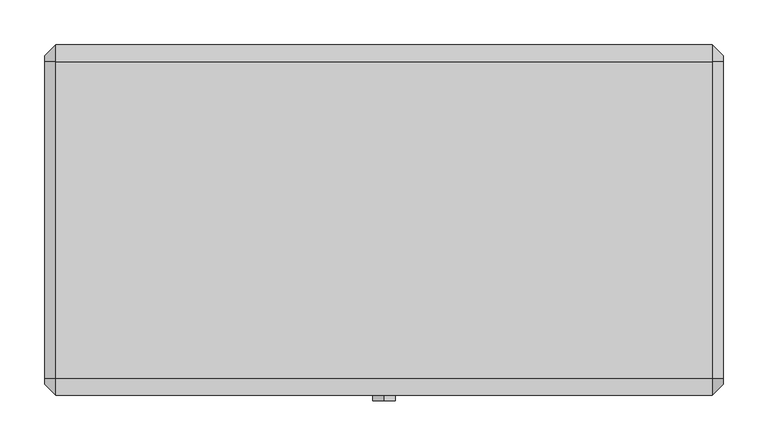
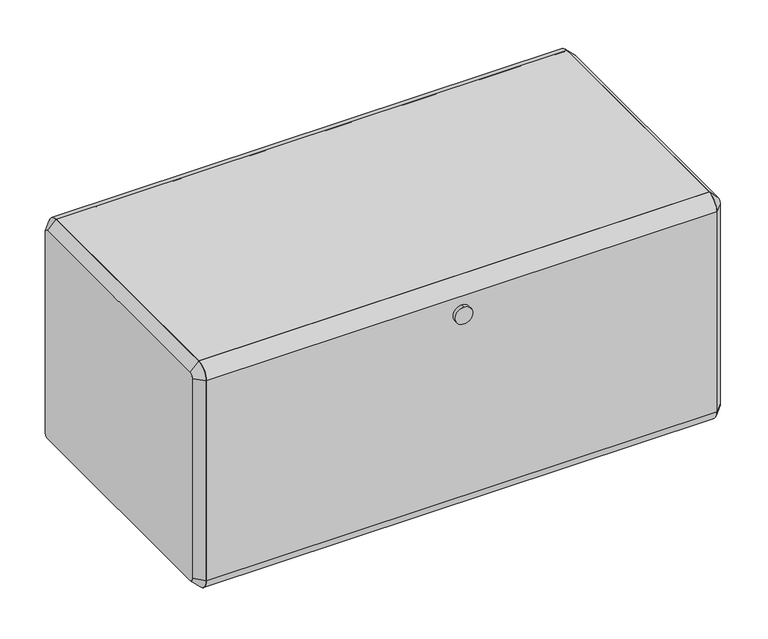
"""IFC4 building model written with IfcOpenShell, lengths in millimetres: furniture geometry."""

from ifc_helpers import new_model, si_unit, point, frame, frame_2d, origin, place, context, project, spatial, polyline, circle_curve, trimmed, segment, composite_curve, outline, extrude, source, transform, mapped, element, save
from ifc_brep_helpers import plane_surface, revolved_surface, advanced_brep


def furniture_1f80d258(model_context):
    return source(origin(), model_context, "Body", "SolidModel", [
        extrude(outline(polyline([(368.3, -146.0499879), (368.3, -165.1), (-368.3, -165.1), (-368.3, -146.0499879), (368.3, -146.0499879)])), frame((0.0, 0.0, 495.3), z_axis=(0.0, 0.0, 1.0), x_axis=(1.0, 0.0, 0.0)), (0.0, 0.0, 1.0), 9.525),
        extrude(outline(polyline([(368.3, 190.5), (368.3, -165.1), (-368.3, -165.1), (-368.3, 190.5), (368.3, 190.5)])), frame((0.0, 0.0, 165.1), z_axis=(0.0, 0.0, 1.0), x_axis=(1.0, 0.0, 0.0)), (0.0, 0.0, 1.0), 3.175),
        extrude(outline(composite_curve([segment(polyline([(-165.1, 504.825), (-165.1, 508.0), (190.5, 508.0)]), True, "CONTINUOUS"), segment(trimmed(circle_curve(frame_2d((190.5, 488.95)), 19.05), [point((190.5, 508.0))], [point((209.55, 488.95))], False, "CARTESIAN"), True, "CONTINUOUS"), segment(polyline([(209.55, 488.95), (203.2, 488.95)]), True, "CONTINUOUS"), segment(trimmed(circle_curve(frame_2d((187.8607088, 489.6960671)), 15.3574239), [point((203.2, 488.95))], [point((190.5, 504.825))], True, "CARTESIAN"), True, "CONTINUOUS"), segment(polyline([(190.5, 504.825), (-165.1, 504.825)]), True, "CONTINUOUS")], self_intersect=False)), frame((-368.3, 0.0, 0.0), z_axis=(1.0, 0.0, 0.0), x_axis=(0.0, 1.0, 0.0)), (0.0, 0.0, 1.0), 736.6),
        extrude(outline(composite_curve([segment(trimmed(circle_curve(frame_2d((-165.1, 488.95)), 19.05), [point((-184.15, 488.95))], [point((-165.1, 508.0))], False, "CARTESIAN"), True, "CONTINUOUS"), segment(polyline([(-165.1, 508.0), (-165.1, 495.3)]), True, "CONTINUOUS"), segment(trimmed(circle_curve(frame_2d((-165.1, 488.95)), 6.35), [point((-165.1, 495.3))], [point((-171.45, 488.95))], True, "CARTESIAN"), True, "CONTINUOUS"), segment(polyline([(-171.45, 488.95), (-171.45, 184.15)]), True, "CONTINUOUS"), segment(trimmed(circle_curve(frame_2d((-165.1, 184.15)), 6.35), [point((-171.45, 184.15))], [point((-165.1, 177.8))], True, "CARTESIAN"), True, "CONTINUOUS"), segment(polyline([(-165.1, 177.8), (-165.1, 165.1)]), True, "CONTINUOUS"), segment(trimmed(circle_curve(frame_2d((-165.1, 184.15)), 19.05), [point((-165.1, 165.1))], [point((-184.15, 184.15))], False, "CARTESIAN"), True, "CONTINUOUS"), segment(polyline([(-184.15, 184.15), (-184.15, 488.95)]), True, "CONTINUOUS")], self_intersect=False)), frame((-368.3, 0.0, 0.0), z_axis=(1.0, 0.0, 0.0), x_axis=(0.0, 1.0, 0.0)), (0.0, 0.0, 1.0), 736.6),
        extrude(outline(composite_curve([segment(trimmed(circle_curve(frame_2d((463.5002824, 0.0)), 12.713771), [point((450.7865114, 0.0))], [point((476.2140535, 0.0))], False, "CARTESIAN"), True, "CONTINUOUS"), segment(trimmed(circle_curve(frame_2d((463.5002824, 0.0)), 12.713771), [point((476.2140535, 0.0))], [point((450.7865114, 0.0))], False, "CARTESIAN"), True, "CONTINUOUS")], self_intersect=False)), frame((0.0, -190.5, 0.0), z_axis=(0.0, 1.0, 0.0), x_axis=(0.0, 0.0, 1.0)), (0.0, 0.0, 1.0), 6.35),
        advanced_brep(
        [(381.0, 190.5, 495.3), (381.0, -165.1, 495.3), (381.0, -171.45, 488.95), (381.0, -171.45, 184.15), (381.0, -165.1, 177.8), (381.0, 190.5, 177.8), (381.0, 196.85, 184.15), (381.0, 196.85, 488.95), (368.3, 190.5, 508.0), (368.3, 209.55, 488.95), (368.3, 209.55, 184.15), (368.3, 190.5, 165.1), (368.3, -165.1, 165.1), (368.3, -184.15, 184.15), (368.3, -184.15, 488.95), (368.3, -165.1, 508.0)],
        [
            (0, 1),
            (1, 2, circle_curve(frame((381.0, -165.1, 488.95), z_axis=(1.0, 1.5587531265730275e-12, -1.6520118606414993e-12), x_axis=(1.6520512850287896e-12, 0.0, 1.0)), 6.35)),
            (2, 3),
            (3, 4, circle_curve(frame((381.0, -165.1, 184.15), z_axis=(1.0, -2.3421264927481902e-12, -2.355449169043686e-12), x_axis=(-2.3421069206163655e-12, -1.0, 0.0)), 6.35)),
            (4, 5),
            (5, 6, circle_curve(frame((381.0, 190.5, 184.15), z_axis=(1.0, -3.098854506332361e-12, 3.10151904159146e-12), x_axis=(3.1015606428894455e-12, 0.0, -1.0)), 6.35)),
            (6, 7),
            (7, 0, circle_curve(frame((381.0, 190.5, 488.95), z_axis=(1.0, 1.5587531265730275e-12, 1.4601653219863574e-12), x_axis=(-1.5587877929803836e-12, 1.0, 0.0)), 6.35)),
            (8, 9, circle_curve(frame((368.3, 190.5, 488.95), z_axis=(-1.0, -1.5587531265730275e-12, -1.4601653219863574e-12), x_axis=(-1.5587877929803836e-12, 1.0, 0.0)), 19.05)),
            (9, 10),
            (10, 11, circle_curve(frame((368.3, 190.5, 184.15), z_axis=(-1.0, 3.098854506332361e-12, -3.10151904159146e-12), x_axis=(3.1015606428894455e-12, 0.0, -1.0)), 19.05)),
            (11, 12),
            (12, 13, circle_curve(frame((368.3, -165.1, 184.15), z_axis=(-1.0, 2.3421264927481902e-12, 2.355449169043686e-12), x_axis=(-2.3421069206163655e-12, -1.0, 0.0)), 19.05)),
            (13, 14),
            (14, 15, circle_curve(frame((368.3, -165.1, 488.95), z_axis=(-1.0, -1.5587531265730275e-12, 1.6520118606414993e-12), x_axis=(1.6520512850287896e-12, 0.0, 1.0)), 19.05)),
            (15, 8),
            (15, 1),
            (0, 8),
            (14, 2),
            (13, 3),
            (12, 4),
            (11, 5),
            (10, 6),
            (9, 7),
        ],
        [
            plane_surface(frame((381.0, 12.7, 336.55), z_axis=(1.0, 0.0, 0.0), x_axis=(0.0, -1.0, 0.0))),
            plane_surface(frame((368.3, 12.7, 336.55), z_axis=(-1.0, 0.0, 0.0), x_axis=(0.0, -1.0, 0.0))),
            plane_surface(frame((368.3, 12.7, 508.0), z_axis=(0.707106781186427, 0.0, 0.7071067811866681), x_axis=(0.0, -1.0, 0.0))),
            revolved_surface(polyline([(381.0000000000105, -165.1, 495.2999999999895), (368.3, -165.1, 508.0)]), (387.35, -165.1, 488.95), (-1.0, -1.5587531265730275e-12, 1.6520118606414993e-12)),
            plane_surface(frame((368.3, -184.15, 336.55), z_axis=(0.7071067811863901, -0.7071067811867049, 0.0), x_axis=(0.0, 0.0, -1.0))),
            revolved_surface(polyline([(381.00000000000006, -171.44999999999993, 184.15), (368.2999999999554, -184.15000000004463, 184.15)]), (387.35, -165.1, 184.15), (-1.0, 2.3421264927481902e-12, 2.355449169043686e-12)),
            plane_surface(frame((368.3, 12.7, 165.1), z_axis=(0.7071067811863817, 0.0, -0.7071067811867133), x_axis=(0.0, 1.0, 0.0))),
            revolved_surface(polyline([(381.00000000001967, 190.5, 177.80000000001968), (368.3, 190.5, 165.1)]), (387.35, 190.5, 184.15), (-1.0, 3.098854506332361e-12, -3.10151904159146e-12)),
            plane_surface(frame((368.3, 209.55, 336.55), z_axis=(0.7071067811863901, 0.7071067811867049, 0.0), x_axis=(0.0, 0.0, 1.0))),
            revolved_surface(polyline([(381.0, 196.85000000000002, 488.95), (368.29999999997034, 209.5500000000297, 488.95)]), (387.35, 190.5, 488.95), (-1.0, -1.5587531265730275e-12, -1.4601653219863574e-12)),
        ],
        [
            (0, [[1, 2, 3, 4, 5, 6, 7, 8]]),
            (1, [[9, 10, 11, 12, 13, 14, 15, 16]]),
            (2, [[-16, 17, -1, 18]]),
            (3, [[-15, 19, -2, -17]]),
            (4, [[-14, 20, -3, -19]]),
            (5, [[-13, 21, -4, -20]]),
            (6, [[-12, 22, -5, -21]]),
            (7, [[-11, 23, -6, -22]]),
            (8, [[-10, 24, -7, -23]]),
            (9, [[-9, -18, -8, -24]]),
        ],
    ),
        advanced_brep(
        [(-381.0, -165.1, 495.3), (-381.0, 190.5, 495.3), (-381.0, 196.85, 488.95), (-381.0, 196.85, 184.15), (-381.0, 190.5, 177.8), (-381.0, -165.1, 177.8), (-381.0, -171.45, 184.15), (-381.0, -171.45, 488.95), (-368.3, -165.1, 508.0), (-368.3, -184.15, 488.95), (-368.3, -184.15, 184.15), (-368.3, -165.1, 165.1), (-368.3, 190.5, 165.1), (-368.3, 209.55, 184.15), (-368.3, 209.55, 488.95), (-368.3, 190.5, 508.0)],
        [
            (0, 1),
            (1, 2, circle_curve(frame((-381.0, 190.5, 488.95), z_axis=(-1.0, -1.5560885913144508e-12, -1.4601653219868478e-12), x_axis=(-1.4601859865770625e-12, 0.0, 1.0)), 6.35)),
            (2, 3),
            (3, 4, circle_curve(frame((-381.0, 190.5, 184.15), z_axis=(-1.0, 0.0, 0.0), x_axis=(0.0, 1.0, 0.0)), 6.35)),
            (4, 5),
            (5, 6, circle_curve(frame((-381.0, -165.1, 184.15), z_axis=(-1.0, 0.0, 0.0), x_axis=(0.0, 0.0, -1.0)), 6.35)),
            (6, 7),
            (7, 0, circle_curve(frame((-381.0, -165.1, 488.95), z_axis=(-1.0, -1.5534240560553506e-12, 1.652011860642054e-12), x_axis=(1.5534494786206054e-12, -1.0, 0.0)), 6.35)),
            (8, 9, circle_curve(frame((-368.3, -165.1, 488.95), z_axis=(1.0, 1.5534240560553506e-12, -1.652011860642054e-12), x_axis=(1.5534494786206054e-12, -1.0, 0.0)), 19.05)),
            (9, 10),
            (10, 11, circle_curve(frame((-368.3, -165.1, 184.15), z_axis=(1.0, 0.0, 0.0), x_axis=(0.0, 0.0, -1.0)), 19.05)),
            (11, 12),
            (12, 13, circle_curve(frame((-368.3, 190.5, 184.15), z_axis=(1.0, 0.0, 0.0), x_axis=(0.0, 1.0, 0.0)), 19.05)),
            (13, 14),
            (14, 15, circle_curve(frame((-368.3, 190.5, 488.95), z_axis=(1.0, 1.5560885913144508e-12, 1.4601653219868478e-12), x_axis=(-1.4601859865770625e-12, 0.0, 1.0)), 19.05)),
            (15, 8),
            (15, 1),
            (0, 8),
            (14, 2),
            (13, 3),
            (12, 4),
            (11, 5),
            (10, 6),
            (9, 7),
        ],
        [
            plane_surface(frame((-381.0, 12.7, 336.55), z_axis=(-1.0, 0.0, 0.0), x_axis=(0.0, -1.0, 0.0))),
            plane_surface(frame((-368.3, 12.7, 336.55), z_axis=(1.0, 0.0, 0.0), x_axis=(0.0, -1.0, 0.0))),
            plane_surface(frame((-368.3, 12.7, 508.0), z_axis=(-0.7071067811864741, 0.0, 0.7071067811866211), x_axis=(0.0, 1.0, 0.0))),
            revolved_surface(polyline([(-381.00000000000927, 190.5, 495.29999999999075), (-368.2999999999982, 190.5, 508.0000000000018)]), (-387.35, 190.5, 488.95), (1.0, 1.5560885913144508e-12, 1.4601653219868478e-12)),
            plane_surface(frame((-368.3, 209.55, 336.55), z_axis=(-0.7071067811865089, 0.7071067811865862, 0.0), x_axis=(0.0, 0.0, -1.0))),
            revolved_surface(polyline([(-381.0, 196.85000000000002, 184.15), (-368.3, 209.55, 184.15)]), (-387.35, 190.5, 184.15), (1.0, 0.0, 0.0)),
            plane_surface(frame((-368.3, 12.7, 165.1), z_axis=(-0.7071067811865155, 0.0, -0.7071067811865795), x_axis=(0.0, -1.0, 0.0))),
            revolved_surface(polyline([(-381.0, -165.1, 177.79999999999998), (-368.3, -165.1, 165.1)]), (-387.35, -165.1, 184.15), (1.0, 0.0, 0.0)),
            plane_surface(frame((-368.3, -184.15, 336.55), z_axis=(-0.7071067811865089, -0.7071067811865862, 0.0), x_axis=(0.0, 0.0, 1.0))),
            revolved_surface(polyline([(-381.0000000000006, -171.4499999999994, 488.95), (-368.2999999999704, -184.1500000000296, 488.95)]), (-387.35, -165.1, 488.95), (1.0, 1.5534240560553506e-12, -1.652011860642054e-12)),
        ],
        [
            (0, [[1, 2, 3, 4, 5, 6, 7, 8]]),
            (1, [[9, 10, 11, 12, 13, 14, 15, 16]]),
            (2, [[-16, 17, -1, 18]]),
            (3, [[-15, 19, -2, -17]]),
            (4, [[-14, 20, -3, -19]]),
            (5, [[-13, 21, -4, -20]]),
            (6, [[-12, 22, -5, -21]]),
            (7, [[-11, 23, -6, -22]]),
            (8, [[-10, 24, -7, -23]]),
            (9, [[-9, -18, -8, -24]]),
        ],
    ),
    ])


if __name__ == "__main__":
    model = new_model("IFC4")
    model_context = context("Model", 3, world=origin())
    ifc_project = project(units=[si_unit("LENGTHUNIT", "METRE", prefix="MILLI")], contexts=[model_context])
    site = spatial("IfcSite", under=ifc_project)
    building = spatial("IfcBuilding", under=site)
    placement = place(None, origin())
    furniture_shape = furniture_1f80d258(model_context)
    element("IfcFurniture", 1, ObjectType="HermanMiller_ActionOffice_A3121_B-StyleSuspendedLateralFile : 16\"D x 30\"W", at=placement, inside=building, context=model_context, shape_type="MappedRepresentation", body=[
        mapped(furniture_shape, transform((0.0, 0.0, 0.0), x_axis=(1.0, 0.0, 0.0), y_axis=(0.0, 1.0, 0.0), z_axis=(0.0, 0.0, 1.0))),
    ])
    save(model, "model.ifc")
